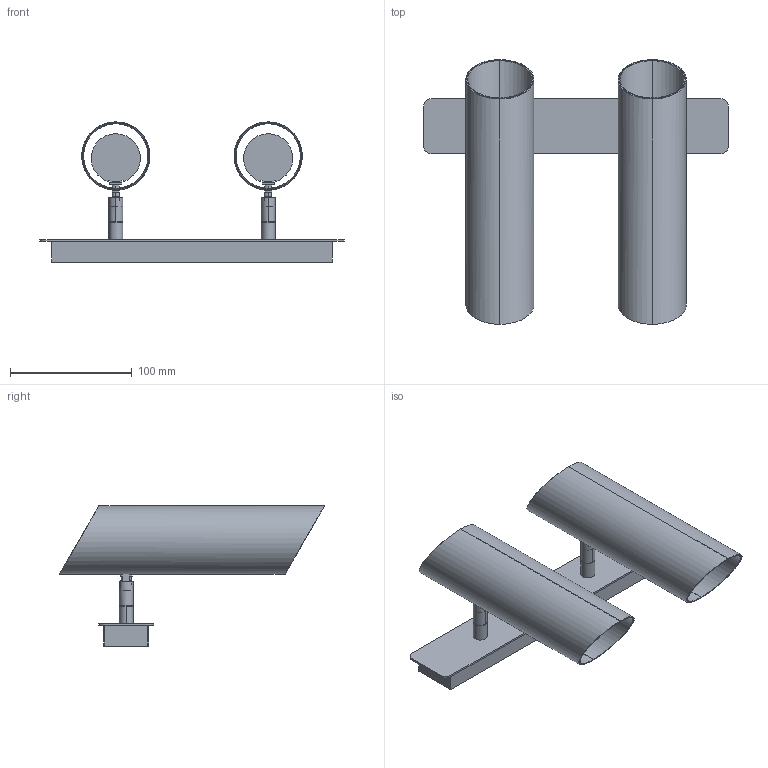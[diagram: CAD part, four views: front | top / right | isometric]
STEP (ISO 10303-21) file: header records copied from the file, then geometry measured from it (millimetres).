
FILE_DESCRIPTION(/* description */ (''),/* implementation_level */ '2;1');
FILE_NAME(/* name */ 'C:\Users\FrancoSartori\Documents\FARO\01_En Proceso\00_LINK\03_Publicación\29875.stp',/* time_stamp */ '2021-07-26T08:44:19+02:00',/* author */ ('FrancoSartori'),/* organization */ (''),/* preprocessor_version */ 'ST-DEVELOPER v18.1',/* originating_system */ 'AutoCAD Mechanical',/* authorisation */ '');
FILE_SCHEMA (('AUTOMOTIVE_DESIGN { 1 0 10303 214 3 1 1 }'));
Length unit declared in the file: millimetre
Products named in the file (2): Product; 29875_ 29876_ - structure-589407-_3D_
Assembly tree (1 placements, depth 2):
  Product
    29875_ 29876_ - structure-589407-_3D_
Bounding box: 250 x 217.33 x 115.07 mm (x, y, z)
Volume: 139448.4 mm3; surface area: 317737.2 mm2
Topology: 11 solids, 13 shells, 184 faces, 437 edges, 278 vertices
Faces by surface type: plane 104, cylinder 72, bspline 8
Entity records: 5967 total; most frequent: CARTESIAN_POINT 1638, DIRECTION 889, ORIENTED_EDGE 850, EDGE_CURVE 437, AXIS2_PLACEMENT_3D 311, VERTEX_POINT 278, LINE 267, VECTOR 267
